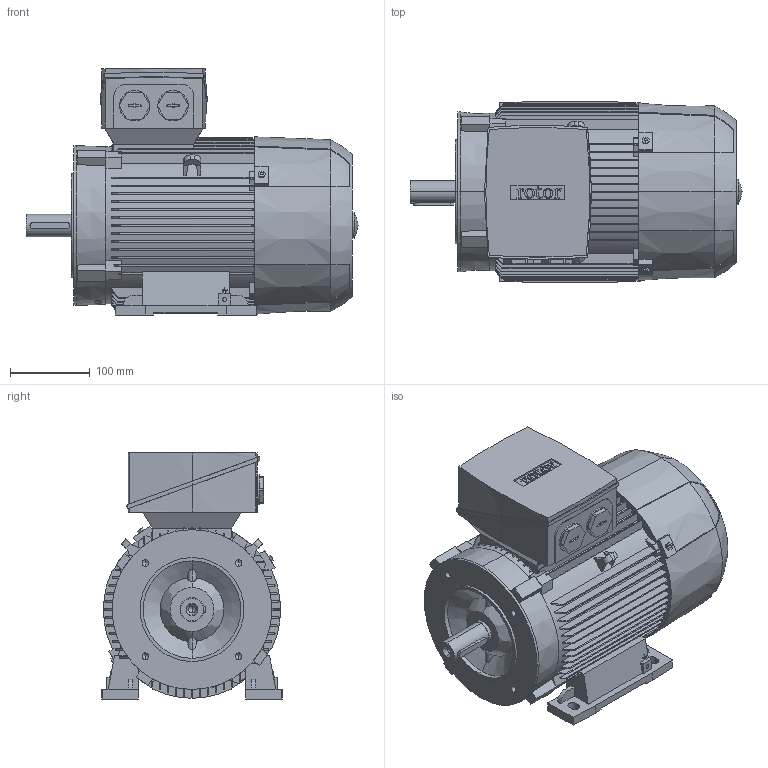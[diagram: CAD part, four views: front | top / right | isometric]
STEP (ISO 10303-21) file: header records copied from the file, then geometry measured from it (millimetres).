
FILE_DESCRIPTION (( 'STEP AP214' ), '1' );
FILE_NAME ('6RN112M06E16 IM2641-B.STEP', '2016-12-30T09:52:20', ( 'rbc_ict' ), ( 'Microsoft' ), 'SwSTEP 2.0', 'SolidWorks 2015', '' );
FILE_SCHEMA (( 'AUTOMOTIVE_DESIGN' ));
Length unit declared in the file: millimetre
Products named in the file (1): 6RN112M06E16 IM2641-B
Bounding box: 415.5 x 226 x 308 mm (x, y, z)
Volume: 13749460.8 mm3; surface area: 616552.2 mm2
Topology: 1 solids, 1 shells, 912 faces, 2573 edges, 1694 vertices
Faces by surface type: plane 538, cylinder 170, bspline 166, cone 38
Entity records: 43749 total; most frequent: CARTESIAN_POINT 12533, ORIENTED_EDGE 5122, DIRECTION 3874, EDGE_CURVE 2561, VERTEX_POINT 1694, VECTOR 1524, LINE 1524, AXIS2_PLACEMENT_3D 1175
